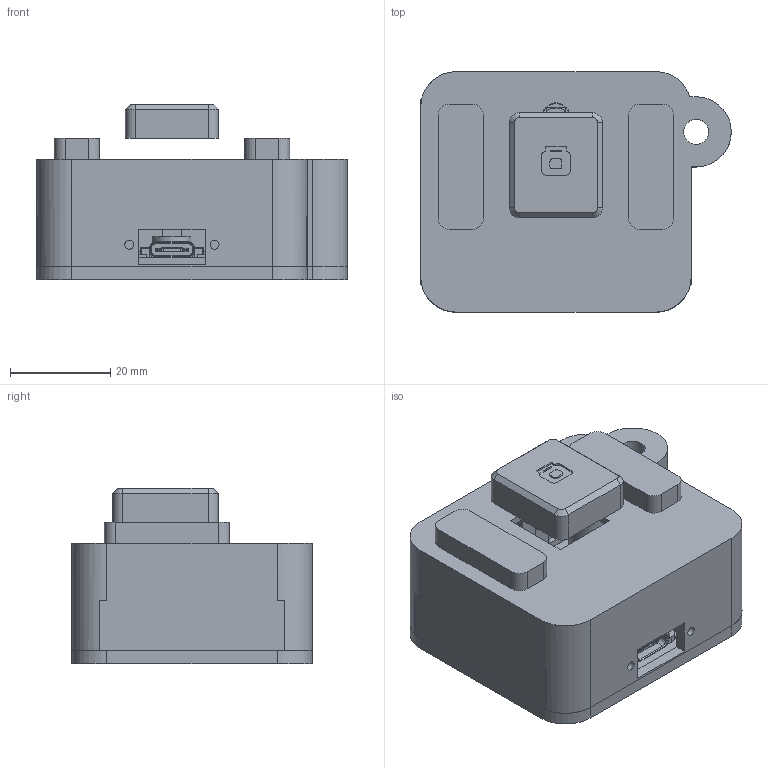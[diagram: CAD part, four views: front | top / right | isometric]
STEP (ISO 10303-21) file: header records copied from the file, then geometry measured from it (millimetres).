
FILE_DESCRIPTION(('Open CASCADE Model'),'2;1');
FILE_NAME('Open CASCADE Shape Model','2026-09-17T20:02:05',('Author'),( 'Open CASCADE'),'Open CASCADE STEP processor 7.7','Open CASCADE 7.7' ,'Unknown');
FILE_SCHEMA(('AUTOMOTIVE_DESIGN { 1 0 10303 214 1 1 1 1 }'));
Length unit declared in the file: millimetre
Products named in the file (16): e45499d4-b2c1-11f1-b417-e6c257a7151f; Upper shell; Upper shell_part; Bottom chassis; Bottom chassis_part; Translucent MX keycap; Translucent MX keycap_part; Translucent light guide; Translucent light guide_part; Left protective shoulder; Left protective shoulder_part; Right protective shoulder; Right protective shoulder_part; Seeed XIAO ESP32-S3 reference; Seeed XIAO ESP32-S3 reference_part
Assembly tree (15 placements, depth 4):
  e45499d4-b2c1-11f1-b417-e6c257a7151f
    e45499d4-b2c1-11f1-b417-e6c257a7151f
      Upper shell
        Upper shell_part
      Bottom chassis
        Bottom chassis_part
      Translucent MX keycap
        Translucent MX keycap_part
      Translucent light guide
        Translucent light guide_part
      Left protective shoulder
        Left protective shoulder_part
      Right protective shoulder
        Right protective shoulder_part
      Seeed XIAO ESP32-S3 reference
        Seeed XIAO ESP32-S3 reference_part
Bounding box: 62 x 48 x 35 mm (x, y, z)
Volume: 28171.1 mm3; surface area: 27643.6 mm2
Topology: 43 solids, 48 shells, 1227 faces, 3144 edges, 2049 vertices
Faces by surface type: plane 892, cylinder 297, cone 17, torus 12, sphere 6, bspline 3
Full cylindrical faces by diameter (mm): 0.5 x3, 0.6 x2, 0.75 x14, 1.1 x2, 1.524 x8, 1.72 x1, 1.8 x2, 1.86 x1, 2 x2, 2.2 x4, 2.45 x4, 3.4 x12, 5 x2, 5.35 x1, 5.55 x1, 7.2 x1, 7.6 x1
Entity records: 79775 total; most frequent: CARTESIAN_POINT 15688, DIRECTION 11920, LINE 7812, VECTOR 7812, ORIENTED_EDGE 6272, PCURVE 6272, DEFINITIONAL_REPRESENTATION 6272, EDGE_CURVE 3136
